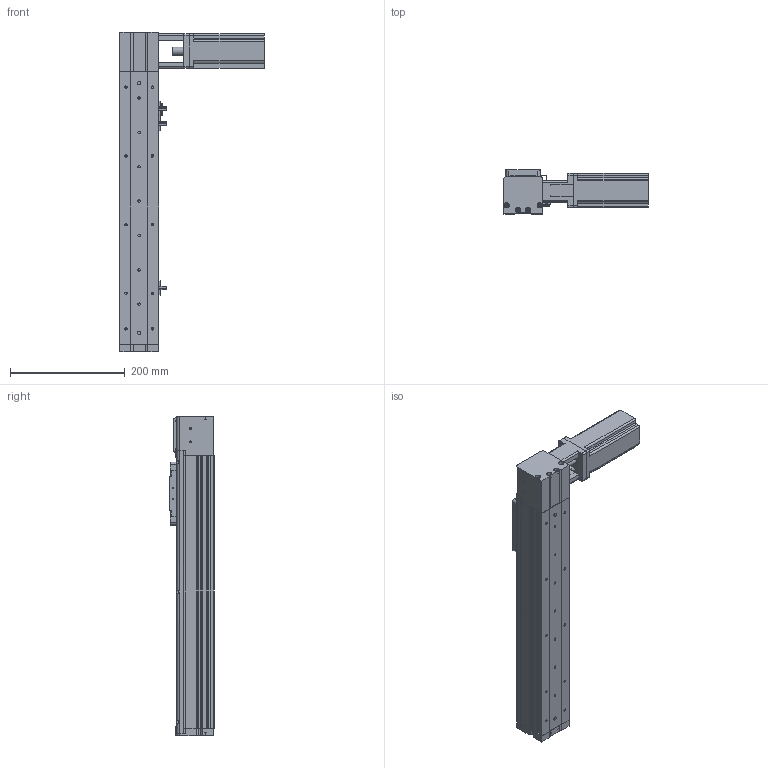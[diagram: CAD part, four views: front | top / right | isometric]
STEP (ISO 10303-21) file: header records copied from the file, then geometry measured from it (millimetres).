
FILE_DESCRIPTION (( 'STEP AP214' ), '1' );
FILE_NAME ('KSD68BS-S300-MRT-CR.STEP', '2019-08-27T06:54:39', ( '微软用户' ), ( '微软中国' ), 'SwSTEP 2.0', 'SolidWorks 2014', '' );
FILE_SCHEMA (( 'AUTOMOTIVE_DESIGN' ));
Length unit declared in the file: millimetre
Products named in the file (13): KSD68BS-S300-MRT-CR; KSD68BS 300行程底板全封闭; 台达ECMA－C20604AS伺服电机（400W); U倰嫖萇EEㄜSX672; 感应片68宽全封闭; 68单导轨全封闭同步带安装板; 68单导轨全封闭同步带电机座左; 68宽单导轨全封闭同步带端板; KSD68BS 300行程侧板全封闭; 68宽单导轨全封闭丝杆传动安装板1防护罩; 68遵裔啣揤啣1; KSD68BS 300行程盖板全封闭; 100遵鎮湛假蚾啣1
Assembly tree (16 placements, depth 2):
  KSD68BS-S300-MRT-CR
    KSD68BS 300行程底板全封闭
    台达ECMA－C20604AS伺服电机（400W)
    U倰嫖萇EEㄜSX672  x3
    感应片68宽全封闭
    68单导轨全封闭同步带安装板
    68单导轨全封闭同步带电机座左
    68宽单导轨全封闭同步带端板
    KSD68BS 300行程侧板全封闭  x2
    68宽单导轨全封闭丝杆传动安装板1防护罩
    68遵裔啣揤啣1  x2
    KSD68BS 300行程盖板全封闭
    100遵鎮湛假蚾啣1
Bounding box: 252.7 x 77 x 558.1 mm (x, y, z)
Volume: 1542331.2 mm3; surface area: 488480.6 mm2
Topology: 17 solids, 17 shells, 1311 faces, 3688 edges, 2370 vertices
Faces by surface type: plane 594, cylinder 585, cone 132
Entity records: 40514 total; most frequent: CARTESIAN_POINT 6803, DIRECTION 6067, ORIENTED_EDGE 5820, EDGE_CURVE 2910, AXIS2_PLACEMENT_3D 2158, VERTEX_POINT 1908, LINE 1751, VECTOR 1751
